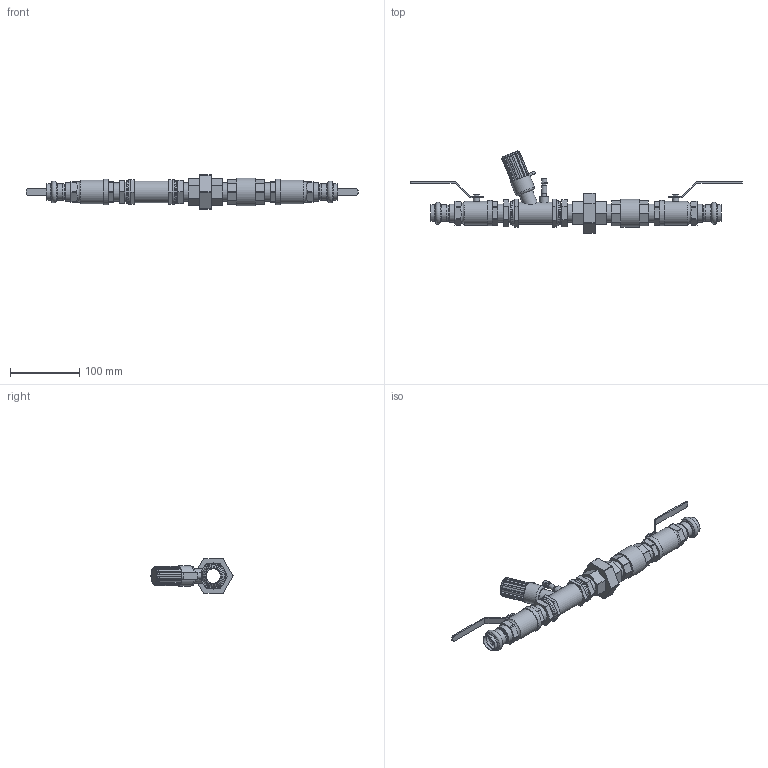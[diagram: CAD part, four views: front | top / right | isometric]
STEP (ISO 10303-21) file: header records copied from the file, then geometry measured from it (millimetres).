
FILE_DESCRIPTION(/* description */ ('VIC DOMESTIC WATER KIT FOR HYDRONIC BALANCING WITH PT PORT SERIES 7WT (CPF)','CAx-IF Rec.Pracs.---Representation and Presentation of Product Manufacturing Information (PMI)---4.0---2014-10-13'),/* implementation_level */ '2;1');
FILE_NAME(/* name */ 'C:\Users\kkamble\AppData\Roaming\Autodesk\ApplicationPlugins\Victaulic.Temp\A577\Victaulic_Domestic Water Kit for Hydronic Balancing With PT Port_Series 7WT (CPF)_PRS_0.75 (20).stp',/* time_stamp */ '2021-08-10T11:13:01+06:00',/* author */ ('kkamble'),/* organization */ ('Victaulic'),/* preprocessor_version */ 'ST-DEVELOPER v17.2',/* originating_system */ 'Autodesk Inventor 2019',/* authorisation */ '');
FILE_SCHEMA (('AP242_MANAGED_MODEL_BASED_3D_ENGINEERING_MIM_LF { 1 0 10303 442 1 1 4 }'));
Length unit declared in the file: inch
Products named in the file (7): 7WT_PRS-0.75; P596-0.75x0.75; 722L_Prs-0.75; Nipple_BR_386-0.75; 7TZ-0.75; Union_BR_386-0.75; Check_Valve_4133-0.75
Assembly tree (11 placements, depth 2):
  7WT_PRS-0.75
    P596-0.75x0.75  x2
    722L_Prs-0.75  x2
    Nipple_BR_386-0.75  x4
    7TZ-0.75
    Union_BR_386-0.75
    Check_Valve_4133-0.75
Bounding box: 479.55 x 118.46 x 49.78 mm (x, y, z)
Volume: 249773.6 mm3; surface area: 130513.8 mm2
Topology: 12 solids, 12 shells, 475 faces, 1299 edges, 894 vertices
Faces by surface type: plane 315, cylinder 126, torus 24, cone 10
Full cylindrical faces by diameter (mm): 4.572 x2, 5.08 x1, 6.35 x3, 7.62 x2, 8.763 x2, 12.7 x1, 20.32 x1, 20.599 x4, 20.879 x4, 20.93 x8, 22.225 x6, 23.851 x4, 26.67 x17, 29.21 x3, 31.75 x1, 33.782 x2, 34.052 x2, 35.56 x2, 36.83 x2, 39.751 x1
Entity records: 12740 total; most frequent: CARTESIAN_POINT 2580, DIRECTION 2026, ORIENTED_EDGE 1970, EDGE_CURVE 985, AXIS2_PLACEMENT_3D 725, VERTEX_POINT 671, LINE 576, VECTOR 576
